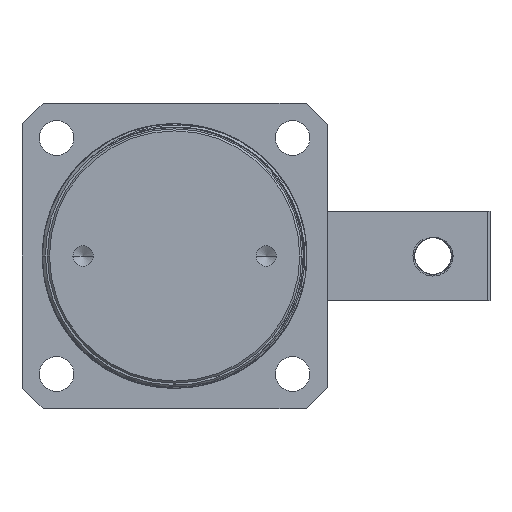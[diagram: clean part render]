
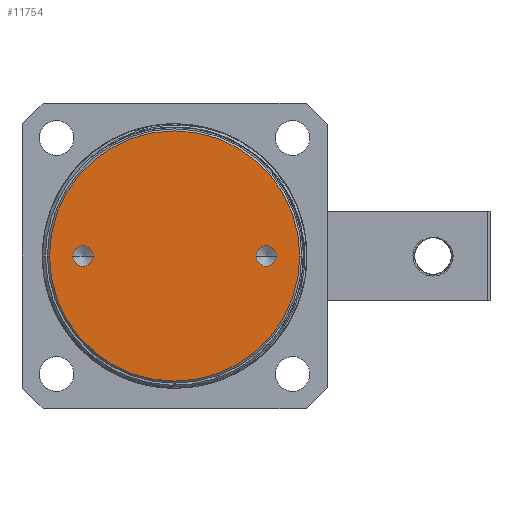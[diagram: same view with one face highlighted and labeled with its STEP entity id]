
A CAD part, front view. The second image highlights one B-rep face of the part: STEP entity #11754.
In plain terms, the highlighted planar face has unit normal (0, -1, 0).
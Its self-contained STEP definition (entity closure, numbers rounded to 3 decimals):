
#2=CARTESIAN_POINT('',(22.5,0.,0.));
#3=DIRECTION('',(0.,1.,0.));
#4=DIRECTION('',(1.,0.,0.));
#5=AXIS2_PLACEMENT_3D('',#2,#3,#4);
#7=CARTESIAN_POINT('',(22.5,0.,0.));
#8=DIRECTION('',(0.,1.,0.));
#9=DIRECTION('',(-1.,0.,0.));
#10=AXIS2_PLACEMENT_3D('',#7,#8,#9);
#12=CARTESIAN_POINT('',(-22.5,0.,0.));
#13=DIRECTION('',(0.,-1.,0.));
#14=DIRECTION('',(-1.,0.,0.));
#15=AXIS2_PLACEMENT_3D('',#12,#13,#14);
#17=CARTESIAN_POINT('',(-22.5,0.,0.));
#18=DIRECTION('',(0.,-1.,0.));
#19=DIRECTION('',(1.,0.,0.));
#20=AXIS2_PLACEMENT_3D('',#17,#18,#19);
#22=CARTESIAN_POINT('',(0.,0.,0.));
#23=DIRECTION('',(0.,-1.,0.));
#24=DIRECTION('',(-1.,0.,0.));
#25=AXIS2_PLACEMENT_3D('',#22,#23,#24);
#40=CARTESIAN_POINT('',(0.,0.,0.));
#41=DIRECTION('',(0.,-1.,0.));
#42=DIRECTION('',(1.,0.,0.));
#43=AXIS2_PLACEMENT_3D('',#40,#41,#42);
#11156=CARTESIAN_POINT('',(30.75,0.,0.));
#11157=CARTESIAN_POINT('',(-30.75,0.,0.));
#11158=VERTEX_POINT('',#11156);
#11159=VERTEX_POINT('',#11157);
#11717=CARTESIAN_POINT('',(25.,0.,0.));
#11718=CARTESIAN_POINT('',(20.,0.,0.));
#11719=VERTEX_POINT('',#11717);
#11720=VERTEX_POINT('',#11718);
#11727=CARTESIAN_POINT('',(-25.,0.,0.));
#11728=CARTESIAN_POINT('',(-20.,0.,0.));
#11729=VERTEX_POINT('',#11727);
#11730=VERTEX_POINT('',#11728);
#11731=CARTESIAN_POINT('',(0.,0.,0.));
#11732=DIRECTION('',(0.,1.,0.));
#11733=DIRECTION('',(1.,0.,0.));
#11734=AXIS2_PLACEMENT_3D('',#11731,#11732,#11733);
#11735=PLANE('',#11734);
#11737=ORIENTED_EDGE('',*,*,#11736,.F.);
#11739=ORIENTED_EDGE('',*,*,#11738,.F.);
#11740=EDGE_LOOP('',(#11737,#11739));
#11741=FACE_OUTER_BOUND('',#11740,.F.);
#11743=ORIENTED_EDGE('',*,*,#11742,.F.);
#11745=ORIENTED_EDGE('',*,*,#11744,.F.);
#11746=EDGE_LOOP('',(#11743,#11745));
#11747=FACE_BOUND('',#11746,.F.);
#11749=ORIENTED_EDGE('',*,*,#11748,.T.);
#11751=ORIENTED_EDGE('',*,*,#11750,.T.);
#11752=EDGE_LOOP('',(#11749,#11751));
#11753=FACE_BOUND('',#11752,.F.);
#11754=ADVANCED_FACE('',(#11741,#11747,#11753),#11735,.F.);
#6=CIRCLE('',#5,2.5);
#11=CIRCLE('',#10,2.5);
#16=CIRCLE('',#15,2.5);
#21=CIRCLE('',#20,2.5);
#26=CIRCLE('',#25,30.75);
#44=CIRCLE('',#43,30.75);
#11736=EDGE_CURVE('',#11159,#11158,#26,.T.);
#11738=EDGE_CURVE('',#11158,#11159,#44,.T.);
#11742=EDGE_CURVE('',#11719,#11720,#6,.T.);
#11744=EDGE_CURVE('',#11720,#11719,#11,.T.);
#11748=EDGE_CURVE('',#11729,#11730,#16,.T.);
#11750=EDGE_CURVE('',#11730,#11729,#21,.T.);
